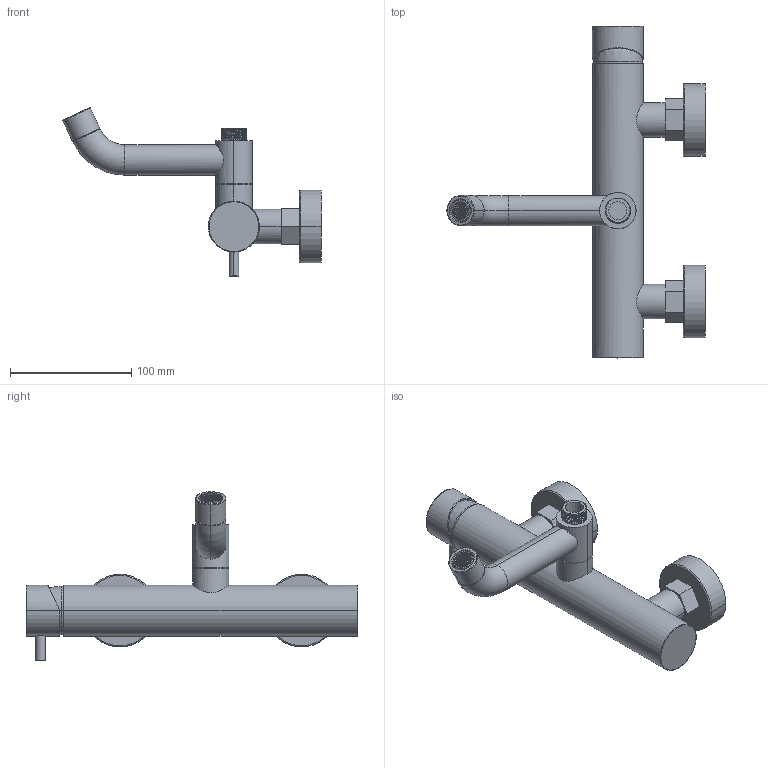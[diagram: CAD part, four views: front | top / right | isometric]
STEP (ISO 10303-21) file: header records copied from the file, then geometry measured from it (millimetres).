
FILE_DESCRIPTION((''),'2;1');
FILE_NAME('MXVAMC163AS','2023-08-31T10:52:29',('Logan'),(''),'CREO PARAMETRIC BY PTC INC, 2022073','CREO PARAMETRIC BY PTC INC, 2022073','');
FILE_SCHEMA(('AUTOMOTIVE_DESIGN { 1 0 10303 214 1 1 1 1 }'));
Length unit declared in the file: millimetre
Products named in the file (1): MXVAMC163AS
Bounding box: 213.16 x 274 x 139.12 mm (x, y, z)
Volume: 598649.6 mm3; surface area: 99793.5 mm2
Topology: 10 solids, 10 shells, 408 faces, 1100 edges, 697 vertices
Faces by surface type: cylinder 188, plane 179, torus 14, cone 14, bspline 11, revolution 2
Entity records: 15621 total; most frequent: CARTESIAN_POINT 5055, ORIENTED_EDGE 2196, DIRECTION 2094, EDGE_CURVE 1098, AXIS2_PLACEMENT_3D 834, VERTEX_POINT 697, EDGE_LOOP 533, CIRCLE 439
